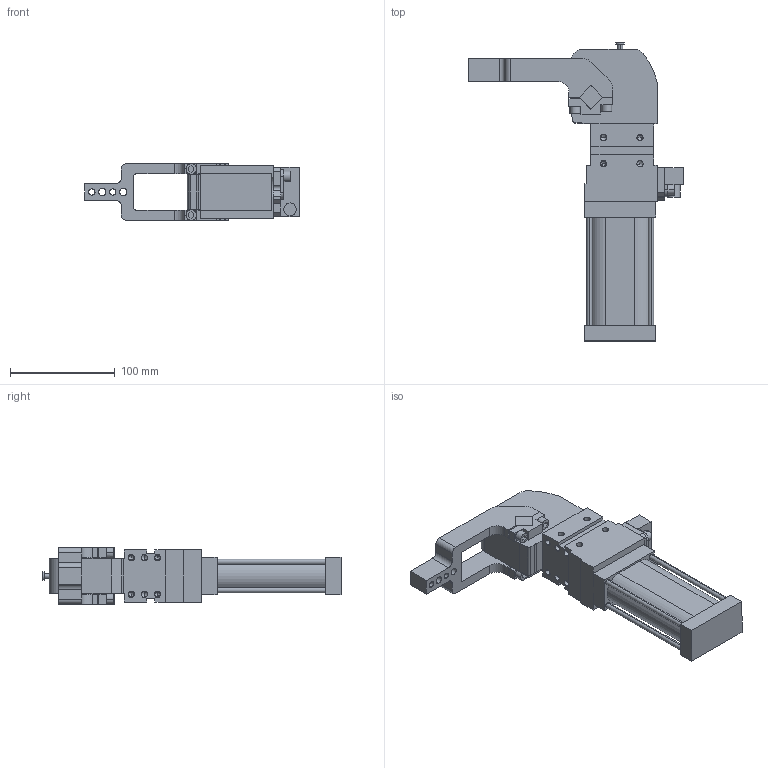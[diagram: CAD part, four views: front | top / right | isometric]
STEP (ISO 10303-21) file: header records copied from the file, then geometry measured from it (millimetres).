
FILE_DESCRIPTION (( 'STEP AP214' ), '1' );
FILE_NAME ('cpl40v1ci1g_135.STEP', '2021-05-17T10:17:02', ( '' ), ( '' ), 'SwSTEP 2.0', 'SolidWorks 2021', '' );
FILE_SCHEMA (( 'AUTOMOTIVE_DESIGN' ));
Length unit declared in the file: millimetre
Products named in the file (5): leva_v1c_cpl40; meccanica_cpl40; blocchetto_VEP_0_cpl40; cpl40v1ci1g_135; piastra_blocchetto_cpl40
Assembly tree (4 placements, depth 2):
  cpl40v1ci1g_135
    meccanica_cpl40
    leva_v1c_cpl40
    blocchetto_VEP_0_cpl40
    piastra_blocchetto_cpl40
Bounding box: 205.5 x 285 x 54 mm (x, y, z)
Volume: 772629.8 mm3; surface area: 118076.1 mm2
Topology: 5 solids, 5 shells, 442 faces, 1130 edges, 709 vertices
Faces by surface type: plane 246, cylinder 148, cone 48
Entity records: 14617 total; most frequent: DIRECTION 2308, CARTESIAN_POINT 2242, ORIENTED_EDGE 2168, EDGE_CURVE 1084, AXIS2_PLACEMENT_3D 775, LINE 758, VECTOR 758, VERTEX_POINT 709
